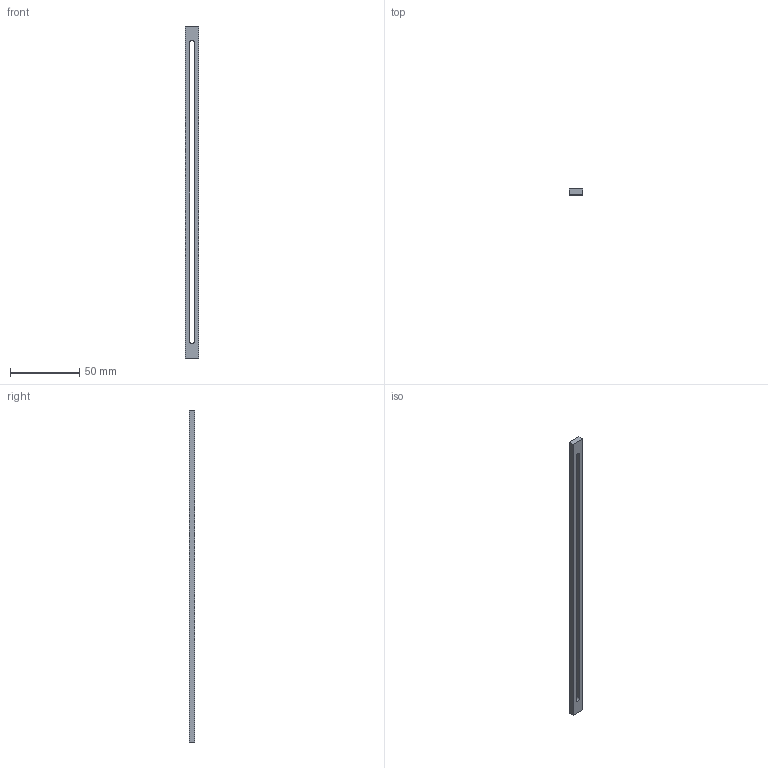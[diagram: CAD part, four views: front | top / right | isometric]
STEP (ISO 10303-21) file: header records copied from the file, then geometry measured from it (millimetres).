
FILE_DESCRIPTION(('Open CASCADE Model'),'2;1');
FILE_NAME('Open CASCADE Shape Model','2026-11-08T04:10:21',('Author'),( 'Open CASCADE'),'Open CASCADE STEP processor 7.8','Open CASCADE 7.8' ,'Unknown');
FILE_SCHEMA(('AUTOMOTIVE_DESIGN { 1 0 10303 214 1 1 1 1 }'));
Length unit declared in the file: millimetre
Products named in the file (1): Open CASCADE STEP translator 7.8 5
Bounding box: 10 x 4 x 240 mm (x, y, z)
Volume: 6626.1 mm3; surface area: 7083.8 mm2
Topology: 1 solids, 1 shells, 10 faces, 24 edges, 16 vertices
Faces by surface type: plane 8, cylinder 2
Entity records: 608 total; most frequent: CARTESIAN_POINT 109, DIRECTION 88, LINE 54, VECTOR 54, ORIENTED_EDGE 48, PCURVE 48, DEFINITIONAL_REPRESENTATION 48, EDGE_CURVE 24
